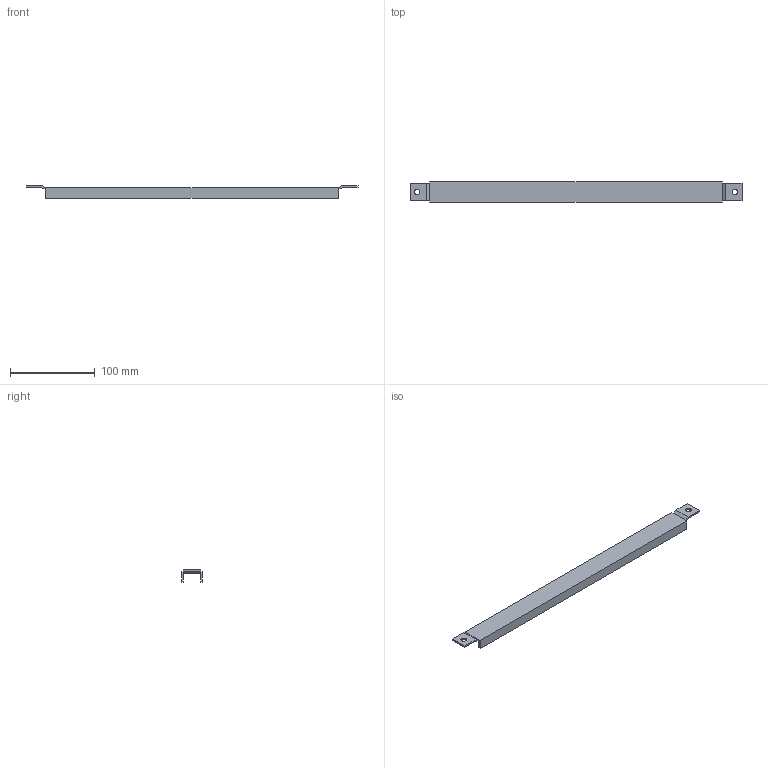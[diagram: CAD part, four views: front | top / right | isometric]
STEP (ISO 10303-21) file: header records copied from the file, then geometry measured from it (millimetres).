
FILE_DESCRIPTION( ( 'STEP AP214' ), '1' );
FILE_NAME( 'p:/temp/worker_140/temp/exporttempdir_4368_429_rjPSP/format_0/DCP502(0).stp', '2021-03-15T15:14:28', ( 'License CC BY-ND 4.0' ), ( 'CADENAS' ), ' ', 'PARTsolutions', ' ' );
FILE_SCHEMA( ( 'AUTOMOTIVE_DESIGN { 1 0 10303 214 1 1 1 1 }' ) );
Length unit declared in the file: millimetre
Products named in the file (1): _DCP502(0)
Bounding box: 392 x 24.44 x 14.31 mm (x, y, z)
Volume: 32502.8 mm3; surface area: 34335.2 mm2
Topology: 1 solids, 1 shells, 28 faces, 74 edges, 48 vertices
Faces by surface type: plane 26, cylinder 2
Full cylindrical faces by diameter (mm): 6.5 x2
Entity records: 1088 total; most frequent: CARTESIAN_POINT 149, ORIENTED_EDGE 144, DIRECTION 134, EDGE_CURVE 72, LINE 68, VECTOR 68, VERTEX_POINT 48, EDGE_LOOP 34
